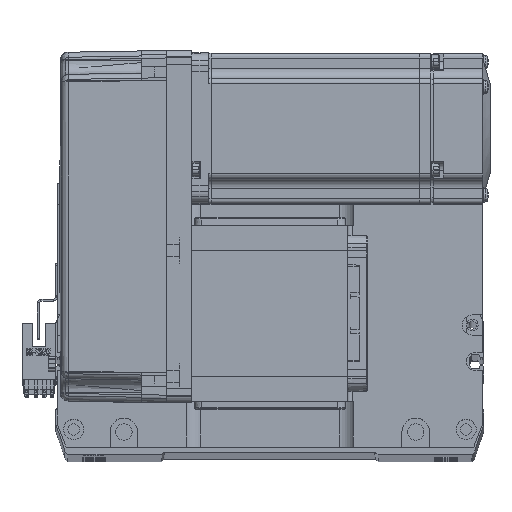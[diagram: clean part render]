
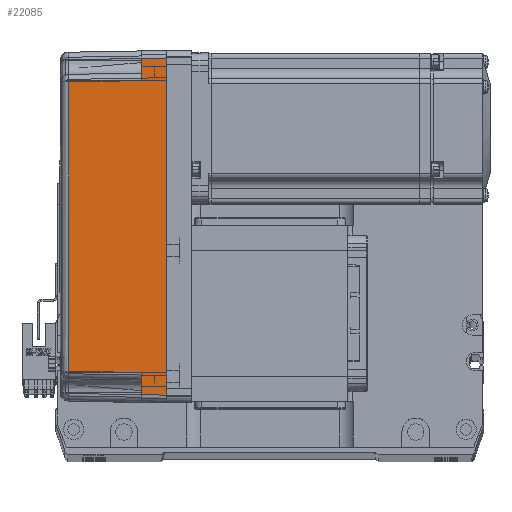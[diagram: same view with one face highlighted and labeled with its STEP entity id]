
A CAD part, top view. The second image highlights one B-rep face of the part: STEP entity #22085.
In plain terms, the highlighted planar face has unit normal (-0.018, 0, 1) as drawn and (0, 1, 0.017) by its records, which use the part's own axes.
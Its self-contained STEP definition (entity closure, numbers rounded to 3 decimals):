
#137 = CARTESIAN_POINT ( 'NONE',  ( -19.165, 35.316, 39.181 ) ) ;
#1156 = DIRECTION ( 'NONE',  ( 0., 1., 0.017 ) ) ;
#1249 = ORIENTED_EDGE ( 'NONE', *, *, #2361, .T. ) ;
#2361 = EDGE_CURVE ( 'NONE', #62534, #27547, #25382, .T. ) ;
#2640 = VERTEX_POINT ( 'NONE', #57405 ) ;
#2916 = EDGE_CURVE ( 'NONE', #2640, #32469, #19816, .T. ) ;
#3441 = EDGE_CURVE ( 'NONE', #40537, #62534, #19825, .T. ) ;
#3505 = LINE ( 'NONE', #19603, #52393 ) ;
#3708 = VECTOR ( 'NONE', #43342, 1000. ) ;
#5442 = CARTESIAN_POINT ( 'NONE',  ( 70., 36., 0. ) ) ;
#8108 = CARTESIAN_POINT ( 'NONE',  ( -58., 35.825, 10. ) ) ;
#8202 = VERTEX_POINT ( 'NONE', #9109 ) ;
#9109 = CARTESIAN_POINT ( 'NONE',  ( -57.495, 35.32, 38.985 ) ) ;
#11383 = DIRECTION ( 'NONE',  ( 0., -0.017, 1. ) ) ;
#12549 = VECTOR ( 'NONE', #27200, 1000. ) ;
#19603 = CARTESIAN_POINT ( 'NONE',  ( 70., 35.825, 10. ) ) ;
#19815 = AXIS2_PLACEMENT_3D ( 'NONE', #5442, #1156, #11383 ) ;
#19816 = LINE ( 'NONE', #19939, #33161 ) ;
#19825 = LINE ( 'NONE', #40126, #30037 ) ;
#19939 = CARTESIAN_POINT ( 'NONE',  ( 57.495, 35.32, 38.985 ) ) ;
#20011 = CARTESIAN_POINT ( 'NONE',  ( 70., 35.825, 10. ) ) ;
#20267 = DIRECTION ( 'NONE',  ( 1., 0., 0. ) ) ;
#20582 = DIRECTION ( 'NONE',  ( 0.017, 0.017, -1. ) ) ;
#20738 = VECTOR ( 'NONE', #62481, 1000. ) ;
#21514 = LINE ( 'NONE', #36690, #20738 ) ;
#22085 = ADVANCED_FACE ( 'NONE', ( #28269 ), #56529, .T. ) ;
#22348 = VERTEX_POINT ( 'NONE', #60011 ) ;
#22371 = CARTESIAN_POINT ( 'NONE',  ( 66.826, 35.825, 10. ) ) ;
#25382 = LINE ( 'NONE', #20011, #37145 ) ;
#26718 = EDGE_CURVE ( 'NONE', #32469, #39675, #3505, .T. ) ;
#27200 = DIRECTION ( 'NONE',  ( -0.017, -0.017, 1. ) ) ;
#27547 = VERTEX_POINT ( 'NONE', #54386 ) ;
#27748 = EDGE_CURVE ( 'NONE', #40537, #22348, #21514, .T. ) ;
#28269 = FACE_OUTER_BOUND ( 'NONE', #32722, .T. ) ;
#29825 = ORIENTED_EDGE ( 'NONE', *, *, #2916, .T. ) ;
#30037 = VECTOR ( 'NONE', #55962, 1000. ) ;
#30616 = CARTESIAN_POINT ( 'NONE',  ( 19.165, 35.316, 39.181 ) ) ;
#31179 = CARTESIAN_POINT ( 'NONE',  ( 58., 35.825, 10. ) ) ;
#31940 = EDGE_CURVE ( 'NONE', #8202, #2640, #59998, .T. ) ;
#32469 = VERTEX_POINT ( 'NONE', #31179 ) ;
#32722 = EDGE_LOOP ( 'NONE', ( #42284, #1249, #44814, #37788, #29825, #34840, #40482, #64685 ) ) ;
#33161 = VECTOR ( 'NONE', #20582, 1000. ) ;
#34748 = DIRECTION ( 'NONE',  ( 1., 0., 0. ) ) ;
#34840 = ORIENTED_EDGE ( 'NONE', *, *, #26718, .T. ) ;
#35283 = CARTESIAN_POINT ( 'NONE',  ( -66.826, 35.825, 10. ) ) ;
#36690 = CARTESIAN_POINT ( 'NONE',  ( 0., 36., 0. ) ) ;
#37085 = CARTESIAN_POINT ( 'NONE',  ( 67.001, 36.001, -0.052 ) ) ;
#37145 = VECTOR ( 'NONE', #20267, 1000. ) ;
#37788 = ORIENTED_EDGE ( 'NONE', *, *, #31940, .T. ) ;
#39675 = VERTEX_POINT ( 'NONE', #22371 ) ;
#40126 = CARTESIAN_POINT ( 'NONE',  ( -67., 36., 0. ) ) ;
#40482 = ORIENTED_EDGE ( 'NONE', *, *, #45043, .F. ) ;
#40537 = VERTEX_POINT ( 'NONE', #56913 ) ;
#41672 = LINE ( 'NONE', #37085, #12549 ) ;
#42284 = ORIENTED_EDGE ( 'NONE', *, *, #3441, .T. ) ;
#43342 = DIRECTION ( 'NONE',  ( 0.017, -0.017, 1. ) ) ;
#44814 = ORIENTED_EDGE ( 'NONE', *, *, #52100, .T. ) ;
#45043 = EDGE_CURVE ( 'NONE', #22348, #39675, #41672, .T. ) ;
#48673 = LINE ( 'NONE', #8108, #3708 ) ;
#50642 = CARTESIAN_POINT ( 'NONE',  ( -57.495, 35.32, 38.985 ) ) ;
#52100 = EDGE_CURVE ( 'NONE', #27547, #8202, #48673, .T. ) ;
#52393 = VECTOR ( 'NONE', #34748, 1000. ) ;
#54386 = CARTESIAN_POINT ( 'NONE',  ( -58., 35.825, 10. ) ) ;
#55285 = CARTESIAN_POINT ( 'NONE',  ( 57.495, 35.32, 38.985 ) ) ;
#55962 = DIRECTION ( 'NONE',  ( 0.017, -0.017, 1. ) ) ;
#56529 = PLANE ( 'NONE',  #19815 ) ;
#56913 = CARTESIAN_POINT ( 'NONE',  ( -67., 36., 0. ) ) ;
#57405 = CARTESIAN_POINT ( 'NONE',  ( 57.495, 35.32, 38.985 ) ) ;
#59998 = B_SPLINE_CURVE_WITH_KNOTS ( 'NONE', 3,
 ( #50642, #137, #30616, #55285 ),
 .UNSPECIFIED., .F., .F.,
 ( 4, 4 ),
 ( 0., 1. ),
 .UNSPECIFIED. ) ;
#60011 = CARTESIAN_POINT ( 'NONE',  ( 67., 36., 0. ) ) ;
#62481 = DIRECTION ( 'NONE',  ( 1., 0., 0. ) ) ;
#62534 = VERTEX_POINT ( 'NONE', #35283 ) ;
#64685 = ORIENTED_EDGE ( 'NONE', *, *, #27748, .F. ) ;
